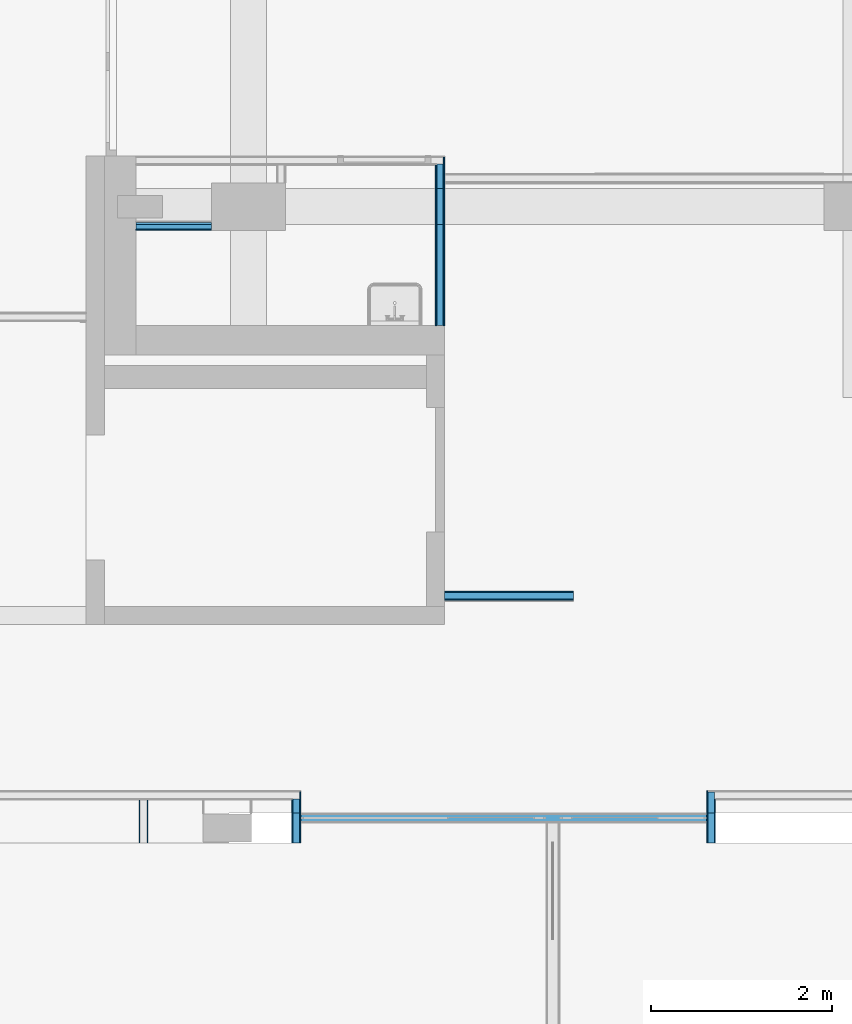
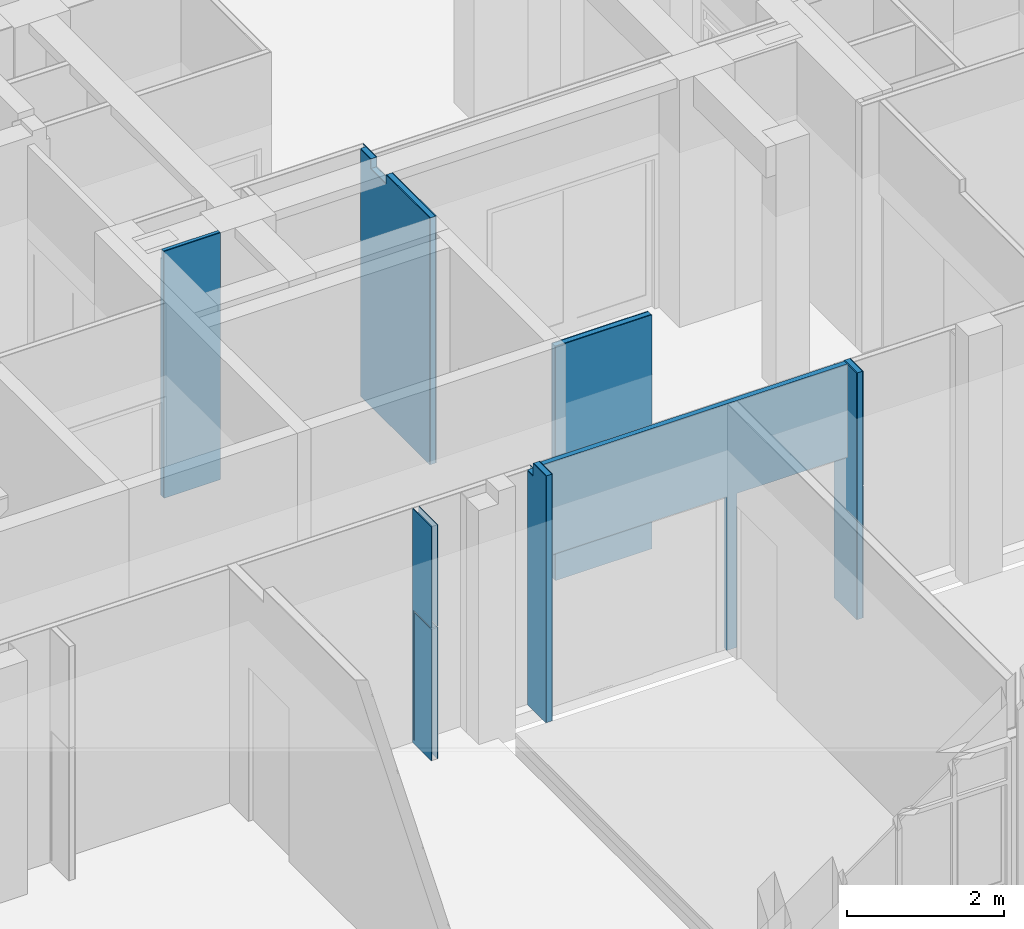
# One storey, part 101 of 135: 17 building element parts, 2 openings, 7 elements without a shape of their own.
"""IFC2X3 building model written with IfcOpenShell, lengths in millimetres."""

from ifc_helpers import new_model, entity, si_unit, converted_unit, derived_unit, money_unit, direction, frame, origin_with_axes, place, context, subcontext, project, spatial, faceted_brep, material, type_object, element, aggregate, save


model = new_model("IFC2X3")

# Units and contexts
model_context = context("Model", 3, precision=0.01, world=origin_with_axes(), true_north=direction((0.0, 1.0)))
body_context = subcontext(model_context, "Body", "Model", "MODEL_VIEW")
ifc_project = project(units=[si_unit("LENGTHUNIT", "METRE", prefix="MILLI"), si_unit("AREAUNIT", "SQUARE_METRE"), si_unit("VOLUMEUNIT", "CUBIC_METRE"), converted_unit("PLANEANGLEUNIT", "DEGREE", entity("IfcPlaneAngleMeasure", 0.0174532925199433), si_unit("PLANEANGLEUNIT", "RADIAN"), dimensions=[0, 0, 0, 0, 0, 0, 0]), money_unit("EUR"), converted_unit("TIMEUNIT", "Year", entity("IfcTimeMeasure", 31557600.0), si_unit("TIMEUNIT", "SECOND"), dimensions=[0, 0, 1, 0, 0, 0, 0]), si_unit("MASSUNIT", "GRAM", prefix="KILO"), si_unit("THERMODYNAMICTEMPERATUREUNIT", "DEGREE_CELSIUS"), si_unit("LUMINOUSINTENSITYUNIT", "LUMEN"), si_unit("ENERGYUNIT", "JOULE", prefix="MEGA"), derived_unit("THERMALCONDUCTANCEUNIT", [(si_unit("POWERUNIT", "WATT"), 1), (si_unit("LENGTHUNIT", "METRE"), -1), (si_unit("THERMODYNAMICTEMPERATUREUNIT", "KELVIN"), -1)]), derived_unit("SPECIFICHEATCAPACITYUNIT", [(si_unit("ENERGYUNIT", "JOULE"), 1), (si_unit("MASSUNIT", "GRAM", prefix="KILO"), -1), (si_unit("THERMODYNAMICTEMPERATUREUNIT", "KELVIN"), -1)]), derived_unit("MASSDENSITYUNIT", [(si_unit("MASSUNIT", "GRAM", prefix="KILO"), 1), (si_unit("VOLUMEUNIT", "CUBIC_METRE"), -1)])], contexts=[model_context])

# Site, building, storey
site_placement = place(None, origin_with_axes())
site = spatial("IfcSite", under=ifc_project, at=site_placement, Name="Site", CompositionType="ELEMENT")
building_placement = place(site_placement, origin_with_axes())
building = spatial("IfcBuilding", under=site, at=building_placement, Name="Naam gebouw", CompositionType="ELEMENT")
storey_placement = place(building_placement, origin_with_axes())
storey = spatial("IfcBuildingStorey", under=building, at=storey_placement, Name="Begane grond N", CompositionType="ELEMENT", Elevation=0.0)

# Wall, building element parts
wall_type = type_object("IfcWallType", Name="Metalstud iso 100 100", PredefinedType="NOTDEFINED")
wall_1_placement = place(storey_placement, frame((20590.99999999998, 17203.41242510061, 0.0), z_axis=(0.0, 0.0, 1.0), x_axis=(1.0, 0.0, 0.0)))
wall_1 = element("IfcWall", 1, at=wall_1_placement, inside=storey, type_object=wall_type, Name="_Wand-x")
ifc_material_1 = material(Name="Isolatie - Steenwol LSW")
building_element_part_1_placement = place(wall_1_placement, origin_with_axes())
building_element_part_1 = element("IfcBuildingElementPart", 2, at=building_element_part_1_placement, material=ifc_material_1, Name="Isolatie - Steenwol LSW", context=body_context, shape_type="Brep", body=[
    faceted_brep([(0.0, -12.49999999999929, 0.0), (0.0, -12.49999999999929, 3699.999999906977), (835.0000000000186, -12.49999999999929, 3699.999999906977), (835.0000000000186, -12.49999999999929, 0.0), (0.0, -37.50000000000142, 3850.0), (0.0, -37.50000000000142, 3699.999999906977), (0.0, -87.49999999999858, 0.0), (0.0, -87.49999999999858, 3850.0), (835.0000000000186, -37.50000000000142, 3699.999999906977), (835.0000000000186, -37.50000000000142, 3850.0), (835.0000000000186, -87.49999999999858, 3850.0), (835.0000000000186, -87.49999999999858, 0.0)], [[[0, 1, 2, 3]], [[4, 5, 1, 0, 6, 7]], [[5, 8, 2, 1]], [[2, 8, 9, 10, 11, 3]], [[11, 6, 0, 3]], [[5, 4, 9, 8]], [[6, 11, 10, 7]], [[10, 9, 4, 7]]]),
])
ifc_material_2 = material(Name="Gipsplaat")
building_element_part_2_placement = place(wall_1_placement, origin_with_axes())
building_element_part_2 = element("IfcBuildingElementPart", 3, at=building_element_part_2_placement, material=ifc_material_2, Name="Gipsplaat", context=body_context, shape_type="Brep", body=[
    faceted_brep([(0.0, -87.49999999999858, 0.0), (0.0, -87.49999999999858, 3850.0), (835.0000000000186, -87.49999999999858, 3850.0), (835.0000000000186, -87.49999999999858, 0.0), (0.0, -100.0000000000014, 0.0), (0.0, -100.0000000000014, 3850.0), (835.0000000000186, -100.0000000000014, 3850.0), (835.0000000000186, -100.0000000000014, 0.0)], [[[0, 1, 2, 3]], [[4, 5, 1, 0]], [[5, 6, 2, 1]], [[3, 2, 6, 7]], [[4, 0, 3, 7]], [[7, 6, 5, 4]]]),
])
aggregate(wall_1, [building_element_part_1, building_element_part_2])

# Wall, openings, building element part
wall_2_placement = place(storey_placement, frame((22415.0, 10605.91242510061, 0.0), z_axis=(0.0, 0.0, 1.0), x_axis=(1.0, 0.0, 0.0)))
wall_2 = element("IfcWall", 4, at=wall_2_placement, inside=storey, type_object=wall_type, Name="_Wand-x")
opening_1_placement = place(wall_2_placement, frame((3672.499999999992, 0.0, 0.0), z_axis=(0.0, 0.0, 1.0), x_axis=(1.0, 0.0, 0.0)))
element("IfcOpeningElement", 5, at=opening_1_placement, cuts=wall_2, Name="_Merk-x", context=body_context, shape_type="Brep", body=[
    faceted_brep([(-812.5, 9.999999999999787, 0.0), (-812.5, 9.999999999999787, 2400.0), (-812.5, 51.00000000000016, 2400.0), (-812.5, 51.00000000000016, 0.0), (-812.5, -51.00000000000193, 0.0), (-812.5, -51.00000000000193, 2400.0), (812.5, 9.999999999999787, 2400.0), (812.5, 51.00000000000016, 2400.0), (812.5, -51.00000000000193, 2400.0), (812.5, 51.00000000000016, 0.0), (812.5, 9.99999999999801, 0.0), (812.5, -51.00000000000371, 0.0)], [[[0, 1, 2, 3]], [[1, 0, 4, 5]], [[6, 7, 2, 1, 5, 8]], [[7, 9, 3, 2]], [[0, 3, 9, 10, 11, 4]], [[5, 4, 11, 8]], [[6, 10, 9, 7]], [[10, 6, 8, 11]]]),
])
opening_2_placement = place(wall_2_placement, frame((1354.999999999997, 0.0, 0.0), z_axis=(0.0, 0.0, 1.0), x_axis=(1.0, 0.0, 0.0)))
element("IfcOpeningElement", 6, at=opening_2_placement, cuts=wall_2, Name="_Merk-x", context=body_context, shape_type="Brep", body=[
    faceted_brep([(-1354.999999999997, 9.999999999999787, 0.0), (-1354.999999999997, 9.999999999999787, 2400.0), (-1354.999999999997, 51.00000000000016, 2400.0), (-1354.999999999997, 51.00000000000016, 0.0), (-1354.999999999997, -51.00000000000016, 0.0), (-1354.999999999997, -51.00000000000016, 2400.0), (1354.999999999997, 9.999999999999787, 2400.0), (1354.999999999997, 51.00000000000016, 2400.0), (1354.999999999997, -51.00000000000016, 2400.0), (1354.999999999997, 51.00000000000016, 0.0), (1354.999999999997, 9.99999999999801, 0.0), (1354.999999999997, -51.00000000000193, 0.0)], [[[0, 1, 2, 3]], [[1, 0, 4, 5]], [[6, 7, 2, 1, 5, 8]], [[7, 9, 3, 2]], [[0, 3, 9, 10, 11, 4]], [[5, 4, 11, 8]], [[6, 10, 9, 7]], [[10, 6, 8, 11]]]),
])
building_element_part_3_placement = place(wall_2_placement, origin_with_axes())
building_element_part_3 = element("IfcBuildingElementPart", 7, at=building_element_part_3_placement, material=ifc_material_1, Name="Isolatie - Steenwol LSW", context=body_context, shape_type="Brep", body=[
    faceted_brep([(2709.999999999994, 9.99999999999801, 0.0), (2709.999999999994, -37.49999999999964, 0.0), (2709.999999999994, -37.49999999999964, 2400.0), (2709.999999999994, 37.49999999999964, 2400.0), (2709.999999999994, 37.49999999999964, 0.0), (2859.999999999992, 37.49999999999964, 0.0), (2859.999999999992, -37.49999999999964, 0.0), (2859.999999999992, -37.49999999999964, 2400.0), (4484.999999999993, -37.49999999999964, 2400.0), (4484.999999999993, -37.49999999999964, 3850.0), (0.0, -37.49999999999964, 3850.0), (0.0, -37.49999999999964, 2400.0), (0.0, 9.999999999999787, 2400.0), (0.0, 37.49999999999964, 2400.0), (2859.999999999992, 37.49999999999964, 2400.0), (0.0, 37.49999999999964, 3850.0), (4484.999999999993, 37.49999999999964, 3850.0), (4484.999999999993, 37.49999999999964, 2400.0)], [[[0, 1, 2, 3, 4]], [[1, 0, 4, 5, 6]], [[2, 1, 6, 7, 8, 9, 10, 11]], [[3, 2, 11, 12, 13]], [[14, 5, 4, 3, 13, 15, 16, 17]], [[5, 14, 7, 6]], [[14, 17, 8, 7]], [[16, 9, 8, 17]], [[9, 16, 15, 10]], [[12, 11, 10, 15, 13]]]),
])
aggregate(wall_2, [building_element_part_3])

# Wall, building element parts
wall_3_placement = place(storey_placement, frame((27000.0, 10805.91242510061, 0.0), z_axis=(0.0, 0.0, 1.0), x_axis=(0.0, -1.0, 0.0)))
wall_3 = element("IfcWall", 8, at=wall_3_placement, inside=storey, type_object=wall_type, Name="_Wand-x")
building_element_part_4_placement = place(wall_3_placement, origin_with_axes())
building_element_part_4 = element("IfcBuildingElementPart", 9, at=building_element_part_4_placement, material=ifc_material_2, Name="Gipsplaat", context=body_context, shape_type="Brep", body=[
    faceted_brep([(25.00002620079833, 0.0, 2049.999999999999), (475.0000233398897, 0.0, 2049.999999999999), (474.9999999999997, 0.0, 0.0), (-12.49999999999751, 0.0, 0.0), (-12.50000000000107, 0.0, 3650.0), (145.0000000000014, 0.0, 3650.0), (145.0000000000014, 0.0, 3850.0), (474.9999999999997, 0.0, 3850.0), (475.0000233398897, 0.0, 2069.999999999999), (25.00002620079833, 0.0, 2069.999999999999), (25.00002620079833, -12.49999999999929, 2049.999999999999), (475.0000233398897, -12.49999999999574, 2049.999999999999), (474.9999999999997, -12.49999999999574, 0.0), (-12.49999999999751, -12.49999999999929, 0.0), (-12.50000000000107, -12.49999999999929, 3650.0), (145.0000000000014, -12.49999999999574, 3650.0), (145.0000000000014, -12.49999999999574, 3850.0), (474.9999999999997, -12.49999999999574, 3850.0), (475.0000233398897, -12.49999999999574, 2069.999999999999), (25.00002620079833, -12.49999999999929, 2069.999999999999)], [[[0, 1, 2, 3, 4, 5, 6, 7, 8, 9]], [[1, 0, 10, 11]], [[1, 11, 12, 2]], [[12, 13, 3, 2]], [[14, 4, 3, 13]], [[5, 4, 14, 15]], [[16, 6, 5, 15]], [[6, 16, 17, 7]], [[18, 8, 7, 17]], [[9, 8, 18, 19]], [[0, 9, 19, 10]], [[19, 18, 17, 16, 15, 14, 13, 12, 11, 10]]]),
])
building_element_part_5_placement = place(wall_3_placement, origin_with_axes())
building_element_part_5 = element("IfcBuildingElementPart", 10, at=building_element_part_5_placement, material=ifc_material_2, Name="Gipsplaat", context=body_context, shape_type="Brep", body=[
    faceted_brep([(-100.0000067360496, -100.0000062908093, 3650.0), (-100.0000067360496, -87.49999999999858, 3650.0), (-100.0000298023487, -87.49999999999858, 0.0), (-100.0000298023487, -100.0000000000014, 0.0), (145.0000000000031, -87.49999999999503, 3650.0), (145.0000000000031, -99.99999999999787, 3650.0), (145.0000000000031, -87.49999999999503, 3850.0), (475.0000000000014, -87.49999999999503, 3850.0), (475.0000000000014, -87.49999999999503, 0.0), (475.0000000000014, -99.99999999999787, 0.0), (475.0000000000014, -99.99999999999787, 3850.0), (145.0000000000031, -100.0000038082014, 3850.0)], [[[0, 1, 2, 3]], [[4, 1, 0, 5]], [[4, 6, 7, 8, 2, 1]], [[8, 9, 3, 2]], [[5, 0, 3, 9, 10, 11]], [[11, 6, 4, 5]], [[6, 11, 10, 7]], [[7, 10, 9, 8]]]),
])
building_element_part_6_placement = place(wall_3_placement, origin_with_axes())
building_element_part_6 = element("IfcBuildingElementPart", 11, at=building_element_part_6_placement, material=ifc_material_1, Name="Isolatie - Steenwol LSW", context=body_context, shape_type="Brep", body=[
    faceted_brep([(25.00002620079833, -12.49999999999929, 2049.999999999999), (475.0000233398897, -12.49999999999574, 2049.999999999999), (474.9999999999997, -12.49999999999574, 0.0), (-87.50000000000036, -12.49999999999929, 0.0), (-87.50000000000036, -12.49999999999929, 3650.0), (145.0000000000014, -12.49999999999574, 3650.0), (145.0000000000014, -12.49999999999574, 3850.0), (474.9999999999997, -12.49999999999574, 3850.0), (475.0000233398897, -12.49999999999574, 2069.999999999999), (25.00002620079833, -12.49999999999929, 2069.999999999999), (25.00002620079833, -14.99999999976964, 2049.999999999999), (475.0000233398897, -14.99999999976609, 2049.999999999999), (475.0000233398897, -14.99999999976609, 2069.999999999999), (475.0000000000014, -87.49999999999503, 3850.0), (475.0000000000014, -87.49999999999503, 0.0), (-87.49999999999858, -87.49999999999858, 0.0), (-87.49999999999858, -87.49999999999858, 3650.0), (145.0000000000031, -87.49999999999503, 3650.0), (145.0000000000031, -87.49999999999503, 3850.0), (25.00002620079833, -14.99999999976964, 2069.999999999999)], [[[0, 1, 2, 3, 4, 5, 6, 7, 8, 9]], [[1, 0, 10, 11]], [[12, 8, 7, 13, 14, 2, 1, 11]], [[14, 15, 3, 2]], [[16, 4, 3, 15]], [[5, 4, 16, 17]], [[18, 6, 5, 17]], [[6, 18, 13, 7]], [[9, 8, 12, 19]], [[0, 9, 19, 10]], [[12, 11, 10, 19]], [[17, 16, 15, 14, 13, 18]]]),
])
aggregate(wall_3, [building_element_part_4, building_element_part_5, building_element_part_6])

wall_4_placement = place(storey_placement, frame((23802.99999999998, 13113.41242510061, 0.0), z_axis=(0.0, 0.0, 1.0), x_axis=(1.0, 0.0, 0.0)))
wall_4 = element("IfcWall", 12, at=wall_4_placement, inside=storey, type_object=wall_type, Name="_Wand-x")
building_element_part_7_placement = place(wall_4_placement, origin_with_axes())
building_element_part_7 = element("IfcBuildingElementPart", 13, at=building_element_part_7_placement, material=ifc_material_2, Name="Gipsplaat", context=body_context, shape_type="Brep", body=[
    faceted_brep([(199.9999999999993, 0.0, 3650.0), (1623.547923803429, 0.0, 3650.0), (1623.547923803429, 0.0, 0.0), (199.9999999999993, 0.0, 0.0), (1623.547923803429, -12.49999999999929, 3650.0), (199.9999999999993, -12.49999999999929, 3650.0), (1623.547923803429, -12.49999999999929, 0.0), (199.9999999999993, -12.49999999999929, 0.0)], [[[0, 1, 2, 3]], [[4, 1, 0, 5]], [[1, 4, 6, 2]], [[6, 7, 3, 2]], [[5, 0, 3, 7]], [[4, 5, 7, 6]]]),
])
building_element_part_8_placement = place(wall_4_placement, origin_with_axes())
building_element_part_8 = element("IfcBuildingElementPart", 14, at=building_element_part_8_placement, material=ifc_material_1, Name="Isolatie - Steenwol LSW", context=body_context, shape_type="Brep", body=[
    faceted_brep([(199.9999999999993, -12.49999999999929, 3650.0), (1623.547923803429, -12.49999999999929, 3650.0), (1623.547923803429, -12.49999999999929, 0.0), (199.9999999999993, -12.49999999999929, 0.0), (1623.547923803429, -87.50000000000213, 3650.0), (199.9999999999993, -87.50000000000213, 3650.0), (1623.547923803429, -87.50000000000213, 0.0), (199.9999999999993, -87.50000000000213, 0.0)], [[[0, 1, 2, 3]], [[4, 1, 0, 5]], [[1, 4, 6, 2]], [[6, 7, 3, 2]], [[5, 0, 3, 7]], [[4, 5, 7, 6]]]),
])
building_element_part_9_placement = place(wall_4_placement, origin_with_axes())
building_element_part_9 = element("IfcBuildingElementPart", 15, at=building_element_part_9_placement, material=ifc_material_2, Name="Gipsplaat", context=body_context, shape_type="Brep", body=[
    faceted_brep([(199.9999999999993, -87.50000000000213, 3650.0), (1623.547923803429, -87.50000000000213, 3650.0), (1623.547923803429, -87.50000000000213, 0.0), (199.9999999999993, -87.50000000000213, 0.0), (1623.547923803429, -99.99999999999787, 3650.0), (199.9999999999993, -99.99999999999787, 3650.0), (1623.547923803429, -99.99999999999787, 0.0), (199.9999999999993, -99.99999999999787, 0.0)], [[[0, 1, 2, 3]], [[4, 1, 0, 5]], [[1, 4, 6, 2]], [[6, 7, 3, 2]], [[5, 0, 3, 7]], [[4, 5, 7, 6]]]),
])
aggregate(wall_4, [building_element_part_7, building_element_part_8, building_element_part_9])

wall_5_placement = place(storey_placement, frame((22315.0, 10330.91242510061, 0.0), z_axis=(0.0, 0.0, 1.0), x_axis=(0.0, 1.0, 0.0)))
wall_5 = element("IfcWall", 16, at=wall_5_placement, inside=storey, type_object=wall_type, Name="_Wand-x")
building_element_part_10_placement = place(wall_5_placement, origin_with_axes())
building_element_part_10 = element("IfcBuildingElementPart", 17, at=building_element_part_10_placement, material=ifc_material_2, Name="Gipsplaat", context=body_context, shape_type="Brep", body=[
    faceted_brep([(474.9999999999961, 0.0, 3650.0), (474.9999999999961, -12.49999999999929, 3650.0), (474.9999999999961, -12.49999999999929, 0.0), (474.9999999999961, 0.0, 0.0), (330.0000000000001, -12.49999999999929, 3650.0), (330.0000000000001, 0.0, 3650.0), (330.0000000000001, -12.49999999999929, 3850.0), (0.0, -12.49999999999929, 3850.0), (0.0, -12.49999999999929, 0.0), (0.0, 0.0, 0.0), (0.0, 0.0, 3850.0), (330.0000000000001, 0.0, 3850.0)], [[[0, 1, 2, 3]], [[4, 1, 0, 5]], [[4, 6, 7, 8, 2, 1]], [[3, 2, 8, 9]], [[5, 0, 3, 9, 10, 11]], [[11, 6, 4, 5]], [[6, 11, 10, 7]], [[7, 10, 9, 8]]]),
])
building_element_part_11_placement = place(wall_5_placement, origin_with_axes())
building_element_part_11 = element("IfcBuildingElementPart", 18, at=building_element_part_11_placement, material=ifc_material_2, Name="Gipsplaat", context=body_context, shape_type="Brep", body=[
    faceted_brep([(562.4999999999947, -87.49999999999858, 3650.0), (562.4999999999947, -100.0000000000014, 3650.0), (562.4999999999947, -100.0000000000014, 0.0), (562.4999999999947, -87.49999999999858, 0.0), (330.0000000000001, -100.0000000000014, 3650.0), (330.0000000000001, -87.49999999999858, 3650.0), (330.0000000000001, -100.0000000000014, 3850.0), (0.0, -100.0000000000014, 3850.0), (0.0, -100.0000000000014, 0.0), (0.0, -87.49999999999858, 0.0), (0.0, -87.49999999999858, 3850.0), (330.0000000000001, -87.49999999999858, 3850.0)], [[[0, 1, 2, 3]], [[4, 1, 0, 5]], [[4, 6, 7, 8, 2, 1]], [[3, 2, 8, 9]], [[5, 0, 3, 9, 10, 11]], [[11, 6, 4, 5]], [[6, 11, 10, 7]], [[7, 10, 9, 8]]]),
])
building_element_part_12_placement = place(wall_5_placement, origin_with_axes())
building_element_part_12 = element("IfcBuildingElementPart", 19, at=building_element_part_12_placement, material=ifc_material_1, Name="Isolatie - Steenwol LSW", context=body_context, shape_type="Brep", body=[
    faceted_brep([(487.4999999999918, -12.49999999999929, 3650.0), (487.4999999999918, -87.49999999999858, 3650.0), (487.4999999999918, -87.49999999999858, 0.0), (487.4999999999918, -12.49999999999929, 0.0), (330.0000000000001, -87.49999999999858, 3650.0), (330.0000000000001, -12.49999999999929, 3650.0), (330.0000000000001, -87.49999999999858, 3850.0), (0.0, -87.49999999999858, 3850.0), (0.0, -87.49999999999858, 0.0), (0.0, -12.49999999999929, 0.0), (0.0, -12.49999999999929, 3850.0), (330.0000000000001, -12.49999999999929, 3850.0)], [[[0, 1, 2, 3]], [[4, 1, 0, 5]], [[4, 6, 7, 8, 2, 1]], [[3, 2, 8, 9]], [[5, 0, 3, 9, 10, 11]], [[11, 6, 4, 5]], [[6, 11, 10, 7]], [[7, 10, 9, 8]]]),
])
aggregate(wall_5, [building_element_part_10, building_element_part_11, building_element_part_12])

wall_6_placement = place(storey_placement, frame((20625.0, 10330.91242510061, 0.0), z_axis=(0.0, 0.0, 1.0), x_axis=(0.0, 1.0, 0.0)))
wall_6 = element("IfcWall", 20, at=wall_6_placement, inside=storey, type_object=wall_type, Name="_Wand-x")
building_element_part_13_placement = place(wall_6_placement, origin_with_axes())
building_element_part_13 = element("IfcBuildingElementPart", 21, at=building_element_part_13_placement, material=ifc_material_2, Name="Gipsplaat", context=body_context, shape_type="Brep", body=[
    faceted_brep([(430.0000000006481, -87.49999999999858, 2049.999999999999), (430.0000000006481, -100.0000000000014, 2049.999999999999), (430.0000000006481, -100.0000000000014, 49.99999999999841), (430.0000000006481, -87.49999999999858, 49.99999999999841), (2.860902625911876e-06, -100.0000000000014, 2049.999999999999), (2.860902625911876e-06, -87.49999999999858, 2049.999999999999), (449.9999999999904, -100.0000000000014, 2069.999999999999), (449.9999999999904, -100.0000000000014, 2049.999999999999), (450.0000000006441, -100.0000000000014, 49.99999999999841), (0.0, -100.0000000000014, 0.0), (474.9999999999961, -100.0000000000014, 0.0), (474.9999999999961, -100.0000000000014, 3650.0), (0.0, -100.0000000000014, 3650.0), (2.860902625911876e-06, -100.0000000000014, 2069.999999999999), (450.0000000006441, -87.49999999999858, 49.99999999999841), (449.9999999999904, -87.49999999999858, 2069.999999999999), (2.860902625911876e-06, -87.49999999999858, 2069.999999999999), (0.0, -87.49999999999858, 3650.0), (474.9999999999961, -87.49999999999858, 3650.0), (474.9999999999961, -87.49999999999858, 0.0), (0.0, -87.49999999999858, 0.0), (449.9999999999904, -87.49999999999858, 2049.999999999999)], [[[0, 1, 2, 3]], [[4, 1, 0, 5]], [[6, 7, 8, 2, 1, 4, 9, 10, 11, 12, 13]], [[3, 2, 8, 14]], [[15, 16, 17, 18, 19, 20, 5, 0, 3, 14, 21]], [[4, 5, 20, 9]], [[7, 6, 15, 21, 14, 8]], [[20, 19, 10, 9]], [[18, 11, 10, 19]], [[12, 11, 18, 17]], [[16, 13, 12, 17]], [[6, 13, 16, 15]]]),
])
building_element_part_14_placement = place(wall_6_placement, origin_with_axes())
building_element_part_14 = element("IfcBuildingElementPart", 22, at=building_element_part_14_placement, material=ifc_material_2, Name="Gipsplaat", context=body_context, shape_type="Brep", body=[
    faceted_brep([(430.0000000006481, 0.0, 2049.999999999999), (430.0000000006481, -12.49999999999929, 2049.999999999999), (430.0000000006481, -12.49999999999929, 49.99999999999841), (430.0000000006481, 0.0, 49.99999999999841), (2.860902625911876e-06, -12.49999999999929, 2049.999999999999), (2.860902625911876e-06, 0.0, 2049.999999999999), (449.9999999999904, -12.49999999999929, 2069.999999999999), (449.9999999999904, -12.49999999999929, 2049.999999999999), (450.0000000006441, -12.49999999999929, 49.99999999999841), (0.0, -12.49999999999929, 0.0), (474.9999999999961, -12.49999999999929, 0.0), (474.9999999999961, -12.49999999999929, 3650.0), (0.0, -12.49999999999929, 3650.0), (2.860902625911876e-06, -12.49999999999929, 2069.999999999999), (450.0000000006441, 0.0, 49.99999999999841), (449.9999999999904, 0.0, 2069.999999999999), (2.860902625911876e-06, 0.0, 2069.999999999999), (0.0, 0.0, 3650.0), (474.9999999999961, 0.0, 3650.0), (474.9999999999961, 0.0, 0.0), (0.0, 0.0, 0.0), (449.9999999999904, 0.0, 2049.999999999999)], [[[0, 1, 2, 3]], [[4, 1, 0, 5]], [[6, 7, 8, 2, 1, 4, 9, 10, 11, 12, 13]], [[3, 2, 8, 14]], [[15, 16, 17, 18, 19, 20, 5, 0, 3, 14, 21]], [[4, 5, 20, 9]], [[7, 6, 15, 21, 14, 8]], [[20, 19, 10, 9]], [[18, 11, 10, 19]], [[12, 11, 18, 17]], [[16, 13, 12, 17]], [[6, 13, 16, 15]]]),
])
aggregate(wall_6, [building_element_part_13, building_element_part_14])

wall_7_placement = place(storey_placement, frame((23902.99999999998, 17824.75122651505, 0.0), z_axis=(0.0, 0.0, 1.0), x_axis=(0.0, -1.0, 0.0)))
wall_7 = element("IfcWall", 23, at=wall_7_placement, inside=storey, type_object=wall_type, Name="_Wand-x")
building_element_part_15_placement = place(wall_7_placement, origin_with_axes())
building_element_part_15 = element("IfcBuildingElementPart", 24, at=building_element_part_15_placement, material=ifc_material_2, Name="Gipsplaat", context=body_context, shape_type="Brep", body=[
    faceted_brep([(258.8388014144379, 87.49999999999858, 3850.0), (258.8388014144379, 100.0000000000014, 3850.0), (-87.49999999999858, 100.0000000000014, 3850.0), (-87.49999999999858, 87.49999999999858, 3850.0), (258.8388014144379, 100.0000000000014, 3699.999999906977), (258.8388014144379, 87.49999999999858, 3699.999999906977), (658.8388014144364, 100.0000000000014, 3699.999999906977), (658.8388014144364, 100.0000000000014, 3850.0), (1775.338801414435, 100.0000000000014, 3850.0), (1775.338801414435, 100.0000000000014, 0.0), (-87.49999999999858, 100.0000000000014, 0.0), (-87.49999999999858, 87.49999999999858, 0.0), (1775.338801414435, 87.49999999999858, 0.0), (1775.338801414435, 87.49999999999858, 3850.0), (658.8388014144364, 87.49999999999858, 3850.0), (658.8388014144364, 87.49999999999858, 3699.999999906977)], [[[0, 1, 2, 3]], [[4, 1, 0, 5]], [[6, 7, 8, 9, 10, 2, 1, 4]], [[11, 3, 2, 10]], [[5, 0, 3, 11, 12, 13, 14, 15]], [[6, 4, 5, 15]], [[14, 7, 6, 15]], [[7, 14, 13, 8]], [[9, 8, 13, 12]], [[11, 10, 9, 12]]]),
])
building_element_part_16_placement = place(wall_7_placement, origin_with_axes())
building_element_part_16 = element("IfcBuildingElementPart", 25, at=building_element_part_16_placement, material=ifc_material_1, Name="Isolatie - Steenwol LSW", context=body_context, shape_type="Brep", body=[
    faceted_brep([(258.8388014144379, 12.49999999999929, 3850.0), (258.8388014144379, 87.49999999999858, 3850.0), (-12.49999999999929, 87.49999999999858, 3850.0), (-12.49999999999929, 12.49999999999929, 3850.0), (258.8388014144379, 87.49999999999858, 3699.999999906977), (258.8388014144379, 12.49999999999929, 3699.999999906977), (658.8388014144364, 87.49999999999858, 3699.999999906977), (658.8388014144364, 87.49999999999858, 3850.0), (1775.338801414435, 87.49999999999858, 3850.0), (1775.338801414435, 87.49999999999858, 0.0), (-12.49999999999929, 87.49999999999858, 0.0), (-12.49999999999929, 12.49999999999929, 0.0), (1775.338801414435, 12.49999999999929, 0.0), (1775.338801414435, 12.49999999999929, 3850.0), (658.8388014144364, 12.49999999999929, 3850.0), (658.8388014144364, 12.49999999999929, 3699.999999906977)], [[[0, 1, 2, 3]], [[4, 1, 0, 5]], [[6, 7, 8, 9, 10, 2, 1, 4]], [[11, 3, 2, 10]], [[5, 0, 3, 11, 12, 13, 14, 15]], [[6, 4, 5, 15]], [[14, 7, 6, 15]], [[7, 14, 13, 8]], [[9, 8, 13, 12]], [[11, 10, 9, 12]]]),
])
building_element_part_17_placement = place(wall_7_placement, origin_with_axes())
building_element_part_17 = element("IfcBuildingElementPart", 26, at=building_element_part_17_placement, material=ifc_material_2, Name="Gipsplaat", context=body_context, shape_type="Brep", body=[
    faceted_brep([(258.8388014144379, 0.0, 3850.0), (258.8388014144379, 12.49999999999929, 3850.0), (0.0, 12.49999999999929, 3850.0), (0.0, 0.0, 3850.0), (258.8388014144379, 12.49999999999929, 3699.999999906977), (258.8388014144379, 0.0, 3699.999999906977), (658.8388014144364, 12.49999999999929, 3699.999999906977), (658.8388014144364, 12.49999999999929, 3850.0), (1775.338801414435, 12.49999999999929, 3850.0), (1775.338801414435, 12.49999999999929, 0.0), (0.0, 12.49999999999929, 0.0), (0.0, 0.0, 0.0), (1775.338801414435, 0.0, 0.0), (1775.338801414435, 0.0, 3850.0), (658.8388014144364, 0.0, 3850.0), (658.8388014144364, 0.0, 3699.999999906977)], [[[0, 1, 2, 3]], [[4, 1, 0, 5]], [[6, 7, 8, 9, 10, 2, 1, 4]], [[11, 3, 2, 10]], [[5, 0, 3, 11, 12, 13, 14, 15]], [[6, 4, 5, 15]], [[14, 7, 6, 15]], [[7, 14, 13, 8]], [[9, 8, 13, 12]], [[11, 10, 9, 12]]]),
])
aggregate(wall_7, [building_element_part_15, building_element_part_16, building_element_part_17])

save(model, "model.ifc")
